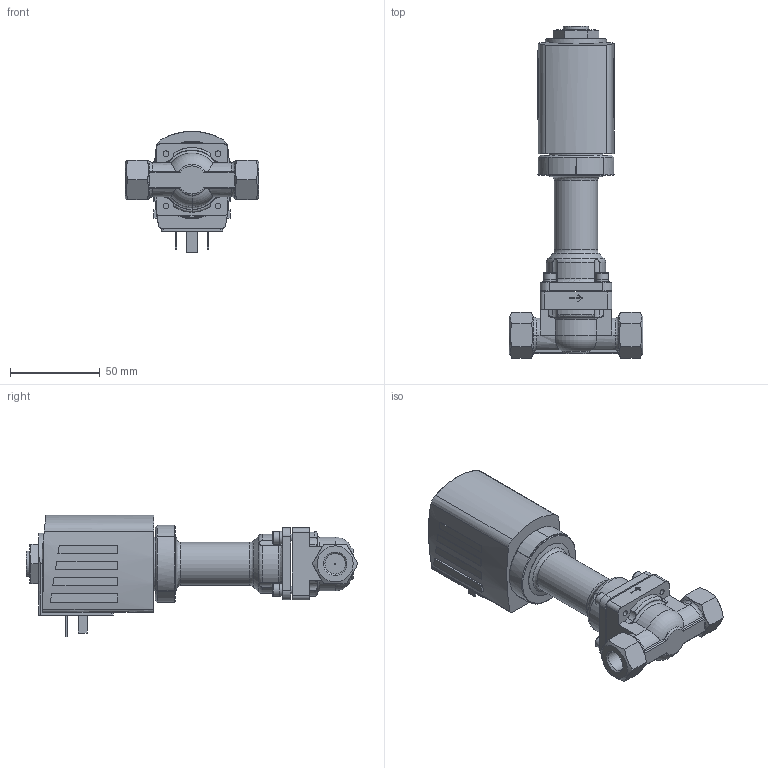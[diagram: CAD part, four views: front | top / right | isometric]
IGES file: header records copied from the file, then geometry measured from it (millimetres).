
Start section: Data from Parasolid IGES Translator 26.0.171, Copyright(c) 2006 Siemens PLM Software. All Rights Reserved.
Global section: file name: 6026-352547-pluger_valve_2_2_Wege_direct-acting.igs; native system: By Siemens PLM Incorporated; preprocessor: XPlus GENERIC/IGES 26.0.171; author: Noname; organization: Noname; date: 20240307.225533; units: millimetre
Bounding box: 74.5 x 184.73 x 67.5 mm (x, y, z)
Surface area: 40549.1 mm2 (no closed solid volume)
Topology: 0 solids, 0 shells, 309 faces, 1542 edges, 1473 vertices
Faces by surface type: extrusion 156, revolution 153
